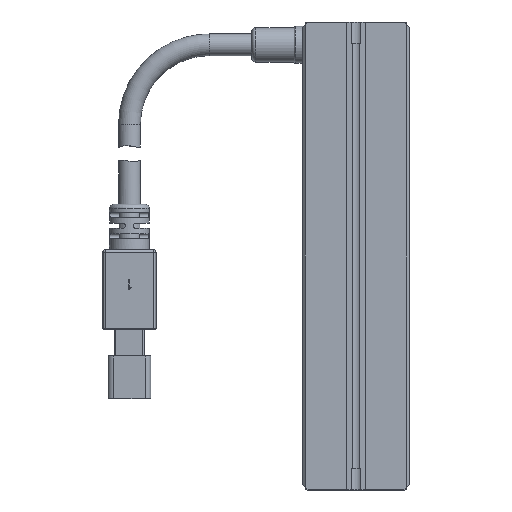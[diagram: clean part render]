
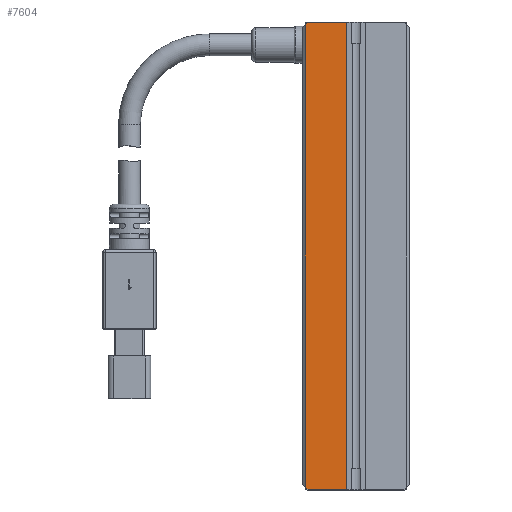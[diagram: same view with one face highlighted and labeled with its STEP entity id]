
A CAD part, front view. The second image highlights one B-rep face of the part: STEP entity #7604.
In plain terms, the highlighted planar face has unit normal (0, -1, 0).
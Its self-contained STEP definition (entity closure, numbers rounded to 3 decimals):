
#719 = LINE ( 'NONE', #8748, #9750 ) ;
#786 = CARTESIAN_POINT ( 'NONE',  ( 0., 0., 44. ) ) ;
#1164 = EDGE_CURVE ( 'NONE', #10497, #5410, #11306, .T. ) ;
#1532 = VECTOR ( 'NONE', #11523, 1000. ) ;
#1714 = EDGE_CURVE ( 'NONE', #7637, #5410, #719, .T. ) ;
#1884 = CARTESIAN_POINT ( 'NONE',  ( -4.5, 0., 48.5 ) ) ;
#2160 = VERTEX_POINT ( 'NONE', #6441 ) ;
#2547 = DIRECTION ( 'NONE',  ( -1., 0., 0. ) ) ;
#3152 = CARTESIAN_POINT ( 'NONE',  ( -1.75, 0., 44. ) ) ;
#4065 = CARTESIAN_POINT ( 'NONE',  ( -9., 0., -44. ) ) ;
#4502 = VECTOR ( 'NONE', #2547, 1000. ) ;
#4673 = VERTEX_POINT ( 'NONE', #6820 ) ;
#4893 = PLANE ( 'NONE',  #11088 ) ;
#4900 = ORIENTED_EDGE ( 'NONE', *, *, #1164, .F. ) ;
#5207 = CARTESIAN_POINT ( 'NONE',  ( 0., 0., 44. ) ) ;
#5410 = VERTEX_POINT ( 'NONE', #4065 ) ;
#6441 = CARTESIAN_POINT ( 'NONE',  ( -9., 0., 44. ) ) ;
#6820 = CARTESIAN_POINT ( 'NONE',  ( -9.5, 0., 43.5 ) ) ;
#7073 = LINE ( 'NONE', #5207, #4502 ) ;
#7556 = VECTOR ( 'NONE', #12153, 1000. ) ;
#7594 = EDGE_CURVE ( 'NONE', #2160, #4673, #10591, .T. ) ;
#7604 = ADVANCED_FACE ( 'NONE', ( #9703 ), #4893, .T. ) ;
#7637 = VERTEX_POINT ( 'NONE', #11696 ) ;
#7826 = CARTESIAN_POINT ( 'NONE',  ( -1.75, 0., 44. ) ) ;
#8748 = CARTESIAN_POINT ( 'NONE',  ( -48.5, 0., -4.5 ) ) ;
#8890 = EDGE_CURVE ( 'NONE', #14164, #2160, #7073, .T. ) ;
#8958 = DIRECTION ( 'NONE',  ( 1., 0., 0. ) ) ;
#9540 = CARTESIAN_POINT ( 'NONE',  ( -9.5, 0., 44. ) ) ;
#9703 = FACE_OUTER_BOUND ( 'NONE', #11284, .T. ) ;
#9750 = VECTOR ( 'NONE', #12871, 1000. ) ;
#10497 = VERTEX_POINT ( 'NONE', #14590 ) ;
#10586 = LINE ( 'NONE', #9540, #7556 ) ;
#10591 = LINE ( 'NONE', #1884, #1532 ) ;
#10672 = EDGE_CURVE ( 'NONE', #4673, #7637, #10586, .T. ) ;
#10755 = ORIENTED_EDGE ( 'NONE', *, *, #17640, .F. ) ;
#11088 = AXIS2_PLACEMENT_3D ( 'NONE', #786, #13012, #8958 ) ;
#11116 = ORIENTED_EDGE ( 'NONE', *, *, #8890, .T. ) ;
#11284 = EDGE_LOOP ( 'NONE', ( #11116, #12529, #13270, #11662, #4900, #10755 ) ) ;
#11306 = LINE ( 'NONE', #11873, #17723 ) ;
#11523 = DIRECTION ( 'NONE',  ( -0.707, 0., -0.707 ) ) ;
#11662 = ORIENTED_EDGE ( 'NONE', *, *, #1714, .T. ) ;
#11696 = CARTESIAN_POINT ( 'NONE',  ( -9.5, 0., -43.5 ) ) ;
#11873 = CARTESIAN_POINT ( 'NONE',  ( 0., 0., -44. ) ) ;
#12153 = DIRECTION ( 'NONE',  ( 0., 0., -1. ) ) ;
#12529 = ORIENTED_EDGE ( 'NONE', *, *, #7594, .T. ) ;
#12871 = DIRECTION ( 'NONE',  ( 0.707, 0., -0.707 ) ) ;
#12974 = DIRECTION ( 'NONE',  ( 0., 0., -1. ) ) ;
#13012 = DIRECTION ( 'NONE',  ( 0., -1., 0. ) ) ;
#13270 = ORIENTED_EDGE ( 'NONE', *, *, #10672, .T. ) ;
#14164 = VERTEX_POINT ( 'NONE', #7826 ) ;
#14590 = CARTESIAN_POINT ( 'NONE',  ( -1.75, 0., -44. ) ) ;
#14670 = VECTOR ( 'NONE', #12974, 1000. ) ;
#17263 = LINE ( 'NONE', #3152, #14670 ) ;
#17366 = DIRECTION ( 'NONE',  ( -1., 0., 0. ) ) ;
#17640 = EDGE_CURVE ( 'NONE', #14164, #10497, #17263, .T. ) ;
#17723 = VECTOR ( 'NONE', #17366, 1000. ) ;
